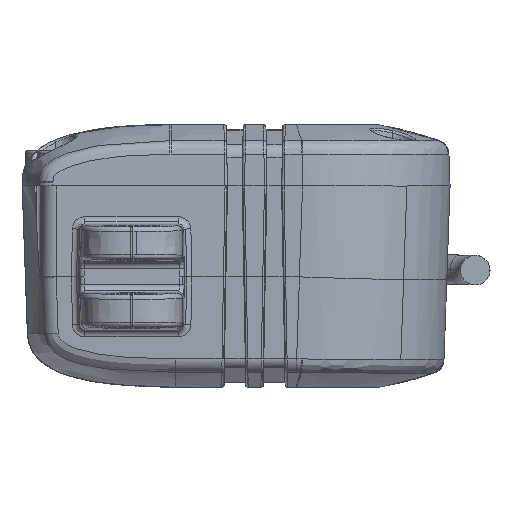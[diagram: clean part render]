
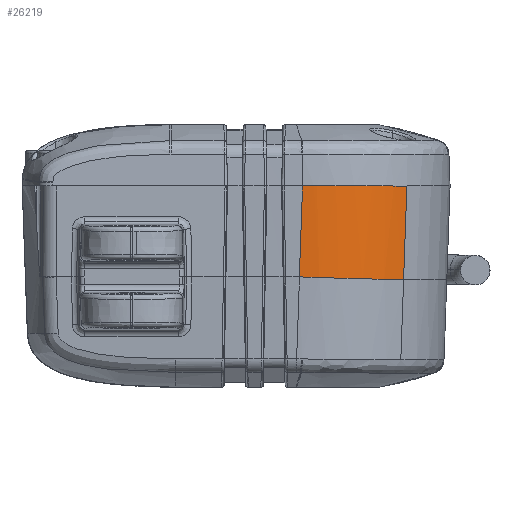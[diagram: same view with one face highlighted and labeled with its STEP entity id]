
A CAD part, left-side view. The second image highlights one B-rep face of the part: STEP entity #26219.
In plain terms, the highlighted cylindrical face has radius 30 mm (diameter 60 mm), a partial arc.
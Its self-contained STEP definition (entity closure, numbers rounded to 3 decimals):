
#4949=CARTESIAN_POINT('',(-32.016,-0.548,
55.321));
#4950=CARTESIAN_POINT('',(-33.127,-0.534,
54.21));
#4951=CARTESIAN_POINT('',(-35.175,-0.495,
51.813));
#4952=CARTESIAN_POINT('',(-37.642,-0.408,
47.792));
#4953=CARTESIAN_POINT('',(-39.451,-0.295,
43.433));
#4954=CARTESIAN_POINT('',(-40.557,-0.159,
38.846));
#4955=CARTESIAN_POINT('',(-40.807,-0.055,
35.71));
#4956=CARTESIAN_POINT('',(-40.809,0.,
34.143));
#4982=CARTESIAN_POINT('',(-40.809,0.,
34.115));
#4983=CARTESIAN_POINT('',(-40.809,0.,
34.125));
#4984=CARTESIAN_POINT('',(-40.809,0.,
34.134));
#4985=CARTESIAN_POINT('',(-40.809,0.,
34.143));
#4987=CARTESIAN_POINT('',(-40.882,18.5,37.069));
#4988=CARTESIAN_POINT('',(-40.902,18.5,36.813));
#4989=CARTESIAN_POINT('',(-40.934,18.5,36.301));
#4990=CARTESIAN_POINT('',(-40.964,18.5,35.529));
#4991=CARTESIAN_POINT('',(-40.97,18.5,35.022));
#4992=CARTESIAN_POINT('',(-40.97,18.5,34.766));
#4994=CARTESIAN_POINT('',(-40.828,18.5,37.681));
#4995=CARTESIAN_POINT('',(-40.835,18.5,37.613));
#4996=CARTESIAN_POINT('',(-40.848,18.5,37.477));
#4997=CARTESIAN_POINT('',(-40.866,18.5,37.273));
#4998=CARTESIAN_POINT('',(-40.877,18.5,37.137));
#4999=CARTESIAN_POINT('',(-40.882,18.5,37.069));
#5001=CARTESIAN_POINT('',(-37.416,18.5,48.934));
#5002=CARTESIAN_POINT('',(-38.037,18.503,47.775));
#5003=CARTESIAN_POINT('',(-39.125,18.499,45.375));
#5004=CARTESIAN_POINT('',(-40.272,18.498,41.591));
#5005=CARTESIAN_POINT('',(-40.701,18.505,38.99));
#5006=CARTESIAN_POINT('',(-40.828,18.5,37.681));
#5008=CARTESIAN_POINT('',(-37.008,18.5,49.67));
#5009=CARTESIAN_POINT('',(-37.055,18.5,49.588));
#5010=CARTESIAN_POINT('',(-37.147,18.5,49.426));
#5011=CARTESIAN_POINT('',(-37.283,18.5,49.18));
#5012=CARTESIAN_POINT('',(-37.372,18.5,49.016));
#5013=CARTESIAN_POINT('',(-37.416,18.5,48.934));
#5015=CARTESIAN_POINT('',(-32.186,18.49,55.981));
#5016=CARTESIAN_POINT('',(-33.121,18.493,55.046));
#5017=CARTESIAN_POINT('',(-34.87,18.484,53.048));
#5018=CARTESIAN_POINT('',(-36.346,18.497,50.827));
#5019=CARTESIAN_POINT('',(-37.008,18.5,49.67));
#5290=DIRECTION('',(0.009,-0.999,-0.035));
#5291=VECTOR('',#5290,19.05);
#5292=CARTESIAN_POINT('',(-32.186,18.49,55.981));
#5293=LINE('',#5292,#5291);
#5849=DIRECTION('',(-0.009,0.999,0.035));
#5850=VECTOR('',#5849,18.512);
#5851=CARTESIAN_POINT('',(-40.809,0.,
34.115));
#5852=LINE('',#5851,#5850);
#14869=VERTEX_POINT('',#4994);
#14870=VERTEX_POINT('',#4999);
#15038=VERTEX_POINT('',#4949);
#15039=VERTEX_POINT('',#4956);
#15451=CARTESIAN_POINT('',(-40.97,18.5,
34.766));
#15453=VERTEX_POINT('',#15451);
#15995=CARTESIAN_POINT('',(-40.809,0.,
34.115));
#15996=VERTEX_POINT('',#15995);
#16022=VERTEX_POINT('',#5008);
#16023=VERTEX_POINT('',#5013);
#16115=CARTESIAN_POINT('',(-32.186,18.49,
55.981));
#16116=VERTEX_POINT('',#16115);
#26195=CARTESIAN_POINT('',(-10.981,19.809,
34.798));
#26196=DIRECTION('',(-0.009,0.999,0.035));
#26197=DIRECTION('',(-0.707,-0.031,0.707));
#26198=AXIS2_PLACEMENT_3D('',#26195,#26196,#26197);
#26199=CYLINDRICAL_SURFACE('',#26198,30.);
#26200=ORIENTED_EDGE('',*,*,#26181,.T.);
#26202=ORIENTED_EDGE('',*,*,#26201,.F.);
#26204=ORIENTED_EDGE('',*,*,#26203,.T.);
#26206=ORIENTED_EDGE('',*,*,#26205,.F.);
#26208=ORIENTED_EDGE('',*,*,#26207,.F.);
#26210=ORIENTED_EDGE('',*,*,#26209,.F.);
#26212=ORIENTED_EDGE('',*,*,#26211,.F.);
#26214=ORIENTED_EDGE('',*,*,#26213,.F.);
#26216=ORIENTED_EDGE('',*,*,#26215,.T.);
#26217=EDGE_LOOP('',(#26200,#26202,#26204,#26206,#26208,#26210,#26212,#26214,
#26216));
#26218=FACE_OUTER_BOUND('',#26217,.F.);
#26219=ADVANCED_FACE('',(#26218),#26199,.T.);
#4957=B_SPLINE_CURVE_WITH_KNOTS('',3,(#4949,#4950,#4951,#4952,#4953,#4954,#4955,
#4956),.UNSPECIFIED.,.F.,.F.,(4,1,1,1,1,4),(0.,0.2,0.4,0.6,0.8,1.),
.UNSPECIFIED.);
#4986=B_SPLINE_CURVE_WITH_KNOTS('',3,(#4982,#4983,#4984,#4985),.UNSPECIFIED.,
.F.,.F.,(4,4),(0.,1.),.UNSPECIFIED.);
#4993=B_SPLINE_CURVE_WITH_KNOTS('',3,(#4987,#4988,#4989,#4990,#4991,#4992),
.UNSPECIFIED.,.F.,.F.,(4,1,1,4),(0.,0.333,0.667,1.),
.UNSPECIFIED.);
#5000=B_SPLINE_CURVE_WITH_KNOTS('',3,(#4994,#4995,#4996,#4997,#4998,#4999),
.UNSPECIFIED.,.F.,.F.,(4,1,1,4),(0.,0.333,0.667,1.),
.UNSPECIFIED.);
#5007=B_SPLINE_CURVE_WITH_KNOTS('',3,(#5001,#5002,#5003,#5004,#5005,#5006),
.UNSPECIFIED.,.F.,.F.,(4,1,1,4),(0.,0.333,0.667,1.),
.UNSPECIFIED.);
#5014=B_SPLINE_CURVE_WITH_KNOTS('',3,(#5008,#5009,#5010,#5011,#5012,#5013),
.UNSPECIFIED.,.F.,.F.,(4,1,1,4),(0.,0.333,0.667,1.),
.UNSPECIFIED.);
#5020=B_SPLINE_CURVE_WITH_KNOTS('',3,(#5015,#5016,#5017,#5018,#5019),
.UNSPECIFIED.,.F.,.F.,(4,1,4),(0.,0.5,1.),.UNSPECIFIED.);
#26181=EDGE_CURVE('',#15038,#15039,#4957,.T.);
#26201=EDGE_CURVE('',#15996,#15039,#4986,.T.);
#26203=EDGE_CURVE('',#15996,#15453,#5852,.T.);
#26205=EDGE_CURVE('',#14870,#15453,#4993,.T.);
#26207=EDGE_CURVE('',#14869,#14870,#5000,.T.);
#26209=EDGE_CURVE('',#16023,#14869,#5007,.T.);
#26211=EDGE_CURVE('',#16022,#16023,#5014,.T.);
#26213=EDGE_CURVE('',#16116,#16022,#5020,.T.);
#26215=EDGE_CURVE('',#16116,#15038,#5293,.T.);
